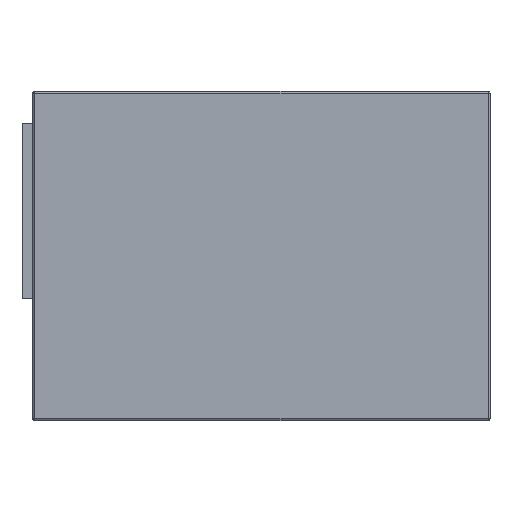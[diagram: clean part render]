
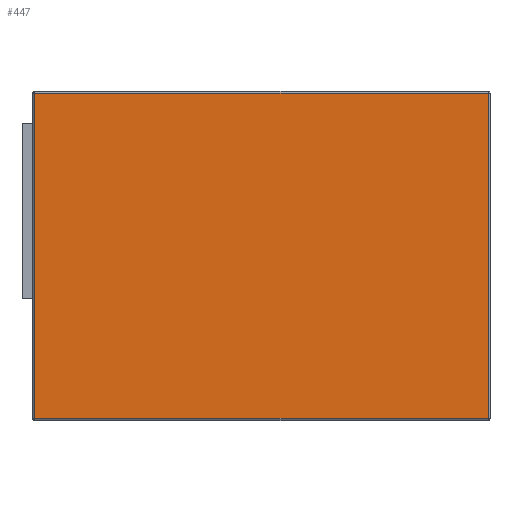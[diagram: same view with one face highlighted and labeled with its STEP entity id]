
A CAD part, top view. The second image highlights one B-rep face of the part: STEP entity #447.
In plain terms, the highlighted planar face has unit normal (0, 0, 1).
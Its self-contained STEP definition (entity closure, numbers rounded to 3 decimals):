
#447=ADVANCED_FACE('',(#911),#912,.F.);
#911=FACE_OUTER_BOUND('',#1373,.T.);
#912=PLANE('',#1374);
#1373=EDGE_LOOP('',(#2658,#2659,#2660,#2661));
#1374=AXIS2_PLACEMENT_3D('',#2662,#2663,#2664);
#2658=ORIENTED_EDGE('',*,*,#3158,.T.);
#2659=ORIENTED_EDGE('',*,*,#3208,.T.);
#2660=ORIENTED_EDGE('',*,*,#3186,.F.);
#2661=ORIENTED_EDGE('',*,*,#3216,.F.);
#2662=CARTESIAN_POINT('',(0.,0.0,337.5));
#2663=DIRECTION('',(0.,0.0,-1.0));
#2664=DIRECTION('',(-1.0,0.0,0.));
#3158=EDGE_CURVE('',#3875,#3881,#3883,.T.);
#3186=EDGE_CURVE('',#3925,#3919,#3927,.T.);
#3208=EDGE_CURVE('',#3881,#3919,#3952,.T.);
#3216=EDGE_CURVE('',#3875,#3925,#3960,.T.);
#3875=VERTEX_POINT('',#4824);
#3881=VERTEX_POINT('',#4831);
#3883=LINE('',#4833,#4834);
#3919=VERTEX_POINT('',#4876);
#3925=VERTEX_POINT('',#4883);
#3927=LINE('',#4885,#4886);
#3952=LINE('',#4917,#4918);
#3960=LINE('',#4929,#4930);
#4824=CARTESIAN_POINT('',(-620.0,-445.0,337.5));
#4831=CARTESIAN_POINT('',(620.0,-445.0,337.5));
#4833=CARTESIAN_POINT('',(0.,-445.0,337.5));
#4834=VECTOR('',#5508,1.0);
#4876=CARTESIAN_POINT('',(620.0,445.0,337.5));
#4883=CARTESIAN_POINT('',(-620.0,445.0,337.5));
#4885=CARTESIAN_POINT('',(0.,445.0,337.5));
#4886=VECTOR('',#5555,1.0);
#4917=CARTESIAN_POINT('',(620.0,0.,337.5));
#4918=VECTOR('',#5583,1.0);
#4929=CARTESIAN_POINT('',(-620.0,0.0,337.5));
#4930=VECTOR('',#5587,1.0);
#5508=DIRECTION('',(1.0,0.0,0.));
#5555=DIRECTION('',(1.0,0.0,0.));
#5583=DIRECTION('',(0.0,1.0,0.));
#5587=DIRECTION('',(0.,1.0,0.));
